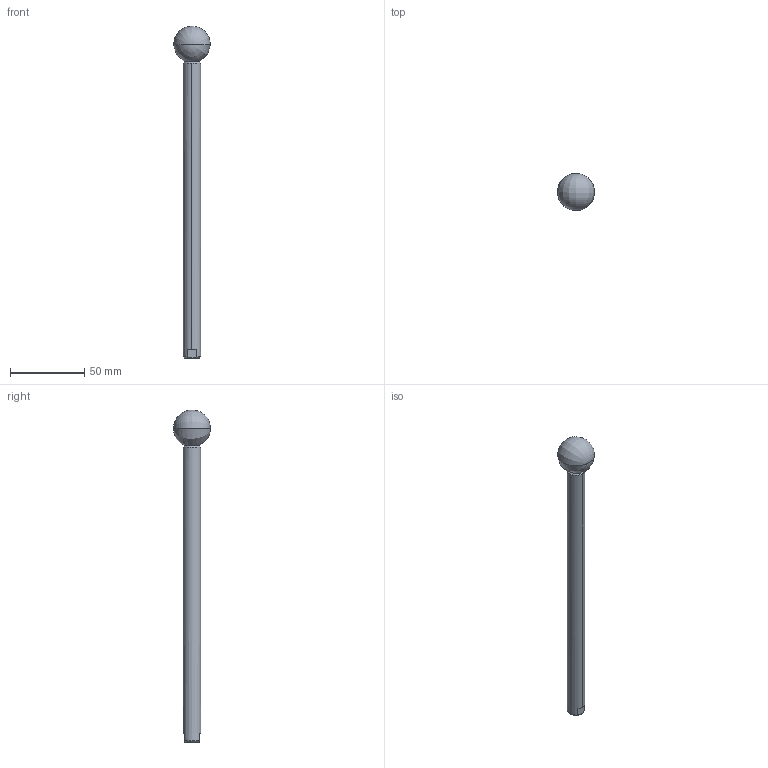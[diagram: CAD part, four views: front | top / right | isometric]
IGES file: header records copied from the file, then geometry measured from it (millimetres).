
Start section: SolidWorks IGES file using analytic representation for surfaces
Global section: file name: X:\11_SW2020-Inv2020\00_全2021-11新製品まで\q\QLRCS-12200\qlrcs-12200.IGS; native system: SolidWorks 2020; preprocessor: SolidWorks 2020; author: ImaoCorp; date: 211021.172032; units: millimetre
Bounding box: 25 x 24.98 x 223.99 mm (x, y, z)
Surface area: 9745.6 mm2 (no closed solid volume)
Topology: 0 solids, 0 shells, 20 faces, 240 edges, 238 vertices
Faces by surface type: revolution 14, bspline 6
